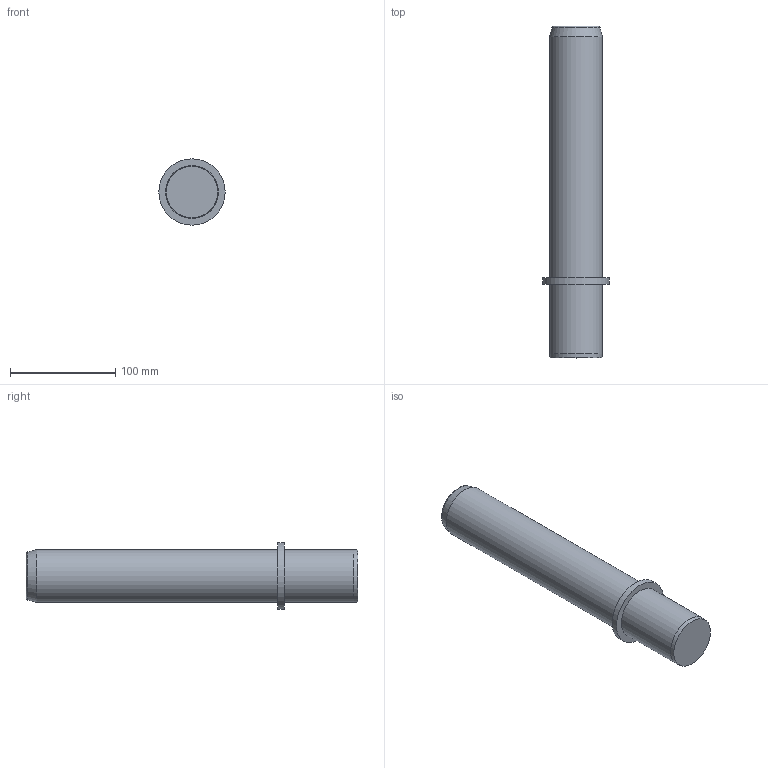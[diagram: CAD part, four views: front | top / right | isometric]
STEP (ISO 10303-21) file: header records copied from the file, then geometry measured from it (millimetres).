
FILE_DESCRIPTION( ( 'STEP AP203' ), '1' );
FILE_NAME( 'D:/Cuma/D13.01/D13.01_50315.step', '2003-01-14T23:17:33', ( ' ' ), ( ' ' ), 'XStep 1.0', ' ', ' ' );
FILE_SCHEMA( ( 'CONFIG_CONTROL_DESIGN' ) );
Length unit declared in the file: metre
Products named in the file (1): 1
Bounding box: 63 x 315 x 63 mm (x, y, z)
Volume: 623187.3 mm3; surface area: 55392.1 mm2
Topology: 1 solids, 1 shells, 10 faces, 15 edges, 9 vertices
Faces by surface type: plane 4, cylinder 3, cone 2, torus 1
Full cylindrical faces by diameter (mm): 50 x2, 63 x1
Entity records: 239 total; most frequent: DIRECTION 40, CARTESIAN_POINT 29, AXIS2_PLACEMENT_3D 20, EDGE_LOOP 18, ORIENTED_EDGE 18, FACE_OUTER_BOUND 14, ADVANCED_FACE 10, EDGE_CURVE 9
